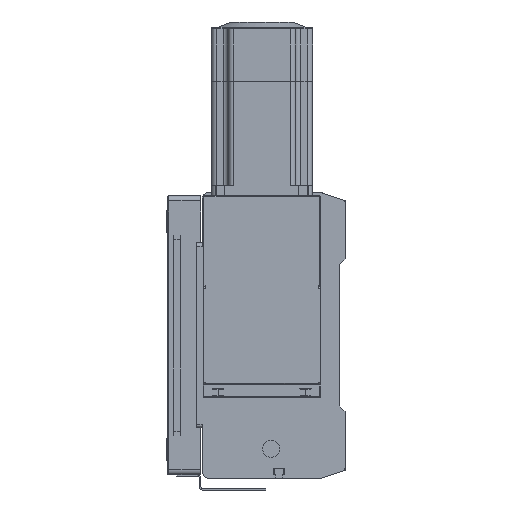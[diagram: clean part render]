
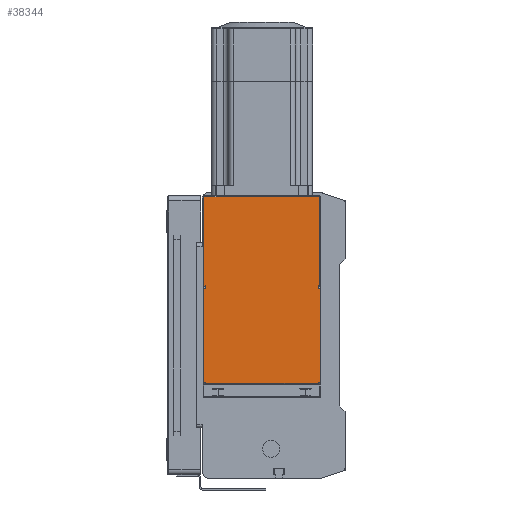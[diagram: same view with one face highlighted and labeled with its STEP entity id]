
A CAD part, left-side view. The second image highlights one B-rep face of the part: STEP entity #38344.
In plain terms, the highlighted planar face has unit normal (-1, 0, 0).
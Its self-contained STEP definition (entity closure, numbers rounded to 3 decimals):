
#25619=DIRECTION('',(0.,1.,0.));
#25620=VECTOR('',#25619,69.);
#25621=CARTESIAN_POINT('',(-333.5,15.5,82.5));
#25622=LINE('',#25621,#25620);
#25667=DIRECTION('',(0.,-1.,0.));
#25668=VECTOR('',#25667,1.);
#25669=CARTESIAN_POINT('',(-333.5,16.5,29.4));
#25670=LINE('',#25669,#25668);
#25861=DIRECTION('',(0.,0.,-1.));
#25862=VECTOR('',#25861,56.);
#25863=CARTESIAN_POINT('',(-333.5,85.,28.));
#25864=LINE('',#25863,#25862);
#25951=DIRECTION('',(0.,0.,-1.));
#25952=VECTOR('',#25951,1.4);
#25953=CARTESIAN_POINT('',(-333.5,83.5,29.4));
#25954=LINE('',#25953,#25952);
#25969=DIRECTION('',(0.,1.,0.));
#25970=VECTOR('',#25969,1.);
#25971=CARTESIAN_POINT('',(-333.5,83.5,29.4));
#25972=LINE('',#25971,#25970);
#25973=DIRECTION('',(0.,0.,-1.));
#25974=VECTOR('',#25973,1.4);
#25975=CARTESIAN_POINT('',(-333.5,16.5,29.4));
#25976=LINE('',#25975,#25974);
#25977=DIRECTION('',(0.,0.,-1.));
#25978=VECTOR('',#25977,56.);
#25979=CARTESIAN_POINT('',(-333.5,15.,28.));
#25980=LINE('',#25979,#25978);
#25981=DIRECTION('',(0.,1.,0.));
#25982=VECTOR('',#25981,1.5);
#25983=CARTESIAN_POINT('',(-333.5,15.,-28.));
#25984=LINE('',#25983,#25982);
#25985=DIRECTION('',(0.,0.,-1.));
#25986=VECTOR('',#25985,0.5);
#25987=CARTESIAN_POINT('',(-333.5,16.5,-28.));
#25988=LINE('',#25987,#25986);
#25994=DIRECTION('',(0.,0.,-1.));
#25995=VECTOR('',#25994,0.5);
#25996=CARTESIAN_POINT('',(-333.5,83.5,-28.));
#25997=LINE('',#25996,#25995);
#26010=DIRECTION('',(0.,-1.,0.));
#26011=VECTOR('',#26010,1.5);
#26012=CARTESIAN_POINT('',(-333.5,85.,-28.));
#26013=LINE('',#26012,#26011);
#26034=DIRECTION('',(0.,-1.,0.));
#26035=VECTOR('',#26034,67.);
#26036=CARTESIAN_POINT('',(-333.5,83.5,-28.5));
#26037=LINE('',#26036,#26035);
#27145=DIRECTION('',(0.,1.,0.));
#27146=VECTOR('',#27145,1.5);
#27147=CARTESIAN_POINT('',(-333.5,83.5,28.));
#27148=LINE('',#27147,#27146);
#27169=DIRECTION('',(0.,0.,-1.));
#27170=VECTOR('',#27169,53.1);
#27171=CARTESIAN_POINT('',(-333.5,84.5,82.5));
#27172=LINE('',#27171,#27170);
#27173=DIRECTION('',(0.,0.,1.));
#27174=VECTOR('',#27173,53.1);
#27175=CARTESIAN_POINT('',(-333.5,15.5,29.4));
#27176=LINE('',#27175,#27174);
#27313=DIRECTION('',(0.,1.,0.));
#27314=VECTOR('',#27313,1.5);
#27315=CARTESIAN_POINT('',(-333.5,15.,28.));
#27316=LINE('',#27315,#27314);
#31529=CARTESIAN_POINT('',(-333.5,84.5,29.4));
#31530=VERTEX_POINT('',#31529);
#31531=CARTESIAN_POINT('',(-333.5,83.5,29.4));
#31532=VERTEX_POINT('',#31531);
#31867=CARTESIAN_POINT('',(-333.5,16.5,-28.));
#31869=VERTEX_POINT('',#31867);
#31874=CARTESIAN_POINT('',(-333.5,16.5,-28.5));
#31876=VERTEX_POINT('',#31874);
#31923=CARTESIAN_POINT('',(-333.5,15.,-28.));
#31924=VERTEX_POINT('',#31923);
#31925=CARTESIAN_POINT('',(-333.5,15.,28.));
#31926=VERTEX_POINT('',#31925);
#32077=CARTESIAN_POINT('',(-333.5,83.5,28.));
#32078=CARTESIAN_POINT('',(-333.5,85.,28.));
#32079=VERTEX_POINT('',#32077);
#32080=VERTEX_POINT('',#32078);
#32081=CARTESIAN_POINT('',(-333.5,16.5,29.4));
#32082=CARTESIAN_POINT('',(-333.5,15.5,29.4));
#32083=VERTEX_POINT('',#32081);
#32084=VERTEX_POINT('',#32082);
#32085=CARTESIAN_POINT('',(-333.5,16.5,28.));
#32086=VERTEX_POINT('',#32085);
#32087=CARTESIAN_POINT('',(-333.5,83.5,-28.));
#32088=CARTESIAN_POINT('',(-333.5,83.5,-28.5));
#32089=VERTEX_POINT('',#32087);
#32090=VERTEX_POINT('',#32088);
#32099=CARTESIAN_POINT('',(-333.5,85.,-28.));
#32100=VERTEX_POINT('',#32099);
#32517=CARTESIAN_POINT('',(-333.5,84.5,82.5));
#32518=VERTEX_POINT('',#32517);
#32539=CARTESIAN_POINT('',(-333.5,15.5,82.5));
#32540=VERTEX_POINT('',#32539);
#38312=CARTESIAN_POINT('',(-333.5,50.,27.));
#38313=DIRECTION('',(1.,0.,0.));
#38314=DIRECTION('',(0.,0.,-1.));
#38315=AXIS2_PLACEMENT_3D('',#38312,#38313,#38314);
#38316=PLANE('',#38315);
#38318=ORIENTED_EDGE('',*,*,#38317,.F.);
#38320=ORIENTED_EDGE('',*,*,#38319,.F.);
#38321=ORIENTED_EDGE('',*,*,#38238,.F.);
#38323=ORIENTED_EDGE('',*,*,#38322,.F.);
#38324=ORIENTED_EDGE('',*,*,#38301,.F.);
#38325=ORIENTED_EDGE('',*,*,#37962,.T.);
#38327=ORIENTED_EDGE('',*,*,#38326,.F.);
#38328=ORIENTED_EDGE('',*,*,#38009,.F.);
#38330=ORIENTED_EDGE('',*,*,#38329,.F.);
#38331=ORIENTED_EDGE('',*,*,#38057,.F.);
#38332=ORIENTED_EDGE('',*,*,#38078,.T.);
#38334=ORIENTED_EDGE('',*,*,#38333,.F.);
#38335=ORIENTED_EDGE('',*,*,#38110,.T.);
#38337=ORIENTED_EDGE('',*,*,#38336,.T.);
#38339=ORIENTED_EDGE('',*,*,#38338,.T.);
#38341=ORIENTED_EDGE('',*,*,#38340,.F.);
#38342=EDGE_LOOP('',(#38318,#38320,#38321,#38323,#38324,#38325,#38327,#38328,
#38330,#38331,#38332,#38334,#38335,#38337,#38339,#38341));
#38343=FACE_OUTER_BOUND('',#38342,.F.);
#37962=EDGE_CURVE('',#31532,#31530,#25972,.T.);
#38009=EDGE_CURVE('',#32540,#32518,#25622,.T.);
#38057=EDGE_CURVE('',#32083,#32084,#25670,.T.);
#38078=EDGE_CURVE('',#32083,#32086,#25976,.T.);
#38110=EDGE_CURVE('',#31926,#31924,#25980,.T.);
#38238=EDGE_CURVE('',#32080,#32100,#25864,.T.);
#38301=EDGE_CURVE('',#31532,#32079,#25954,.T.);
#38317=EDGE_CURVE('',#32089,#32090,#25997,.T.);
#38319=EDGE_CURVE('',#32100,#32089,#26013,.T.);
#38322=EDGE_CURVE('',#32079,#32080,#27148,.T.);
#38326=EDGE_CURVE('',#32518,#31530,#27172,.T.);
#38329=EDGE_CURVE('',#32084,#32540,#27176,.T.);
#38333=EDGE_CURVE('',#31926,#32086,#27316,.T.);
#38336=EDGE_CURVE('',#31924,#31869,#25984,.T.);
#38338=EDGE_CURVE('',#31869,#31876,#25988,.T.);
#38340=EDGE_CURVE('',#32090,#31876,#26037,.T.);
#38344=ADVANCED_FACE('',(#38343),#38316,.F.);
